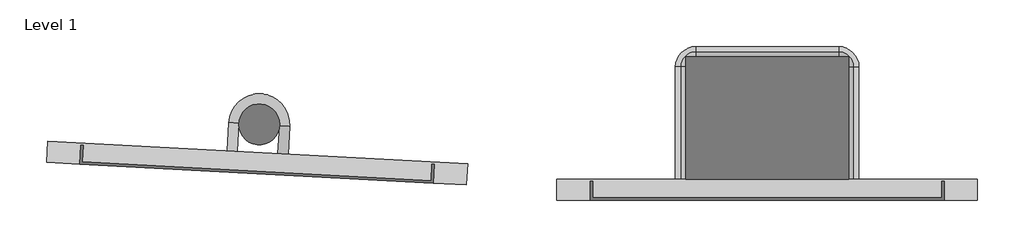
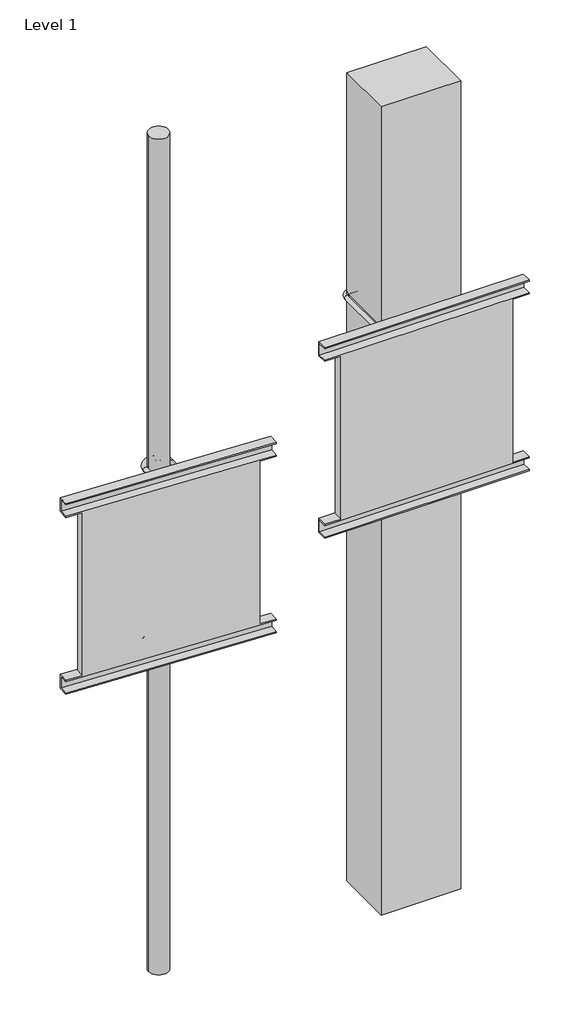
# One storey: 4 proxies.
"""IFC4 building model written with IfcOpenShell, lengths in millimetres."""

from ifc_helpers import new_model, si_unit, point, frame_2d, origin, origin_with_axes, place, context, project, spatial, polyline, circle_curve, trimmed, segment, composite_curve, outline, extrude, transform, mapped, element, save
from components import variable_column_adapter_a97fb514, variable_column_adapter_8650502b

model = new_model("IFC4")

# Units and contexts
model_context = context("Model", 3, world=origin())
ifc_project = project(units=[si_unit("LENGTHUNIT", "METRE", prefix="MILLI")], contexts=[model_context])

# Site, building, storey
site = spatial("IfcSite", under=ifc_project)
building = spatial("IfcBuilding", under=site)
storey = spatial("IfcBuildingStorey", under=building, Name="Level 1", Elevation=0.0)

# Proxies
placement = place(None, origin())
element("IfcBuildingElementProxy", 1, Name="Mass 1 : Mass 1", ObjectType="Mass 1 : Mass 1", at=placement, inside=storey, context=model_context, shape_type="SweptSolid", body=[
    extrude(outline(composite_curve([segment(trimmed(circle_curve(frame_2d((1982.2246291, 1762.4787998)), 25.4), [point((1956.8246291, 1762.4787998))], [point((2007.6246291, 1762.4787998))], False, "CARTESIAN"), True, "CONTINUOUS"), segment(trimmed(circle_curve(frame_2d((1982.2246291, 1762.4787998)), 25.4), [point((2007.6246291, 1762.4787998))], [point((1956.8246291, 1762.4787998))], False, "CARTESIAN"), True, "CONTINUOUS")], self_intersect=False)), origin_with_axes(), (0.0, 0.0, 1.0), 2264.2187315),
])
element("IfcBuildingElementProxy", 2, Name="Mass 2 : Mass 2", ObjectType="Mass 2 : Mass 2", at=placement, inside=storey, context=model_context, shape_type="SweptSolid", body=[
    extrude(outline(polyline([(2716.8755777, 1846.7341435), (2716.8755777, 1694.3341435), (2513.6755777, 1694.3341435), (2513.6755777, 1846.7341435), (2716.8755777, 1846.7341435)])), origin_with_axes(), (0.0, 0.0, 1.0), 2189.5997748),
])
variable_column_adapter_shape = variable_column_adapter_a97fb514(model_context)
element("IfcBuildingElementProxy", 3, Name="Adapter-Column_Mount_Variable-Chief-Flat_Panel_Mount : Variable Column Adapter", ObjectType="Adapter-Column_Mount_Variable-Chief-Flat_Panel_Mount : Variable Column Adapter", at=placement, inside=storey, context=model_context, shape_type="MappedRepresentation", body=[
    mapped(variable_column_adapter_shape, transform((1980.8583093, 1737.115575, 1122.5451273), x_axis=(0.9985521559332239, -0.05379211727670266, 0.0), y_axis=(0.0, 0.0, 1.0), z_axis=(-0.05379211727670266, -0.9985521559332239, 0.0))),
])
variable_column_adapter_2_shape = variable_column_adapter_8650502b(model_context)
element("IfcBuildingElementProxy", 4, Name="Adapter-Column_Mount_Variable-Chief-Flat_Panel_Mount : Variable Column Adapter", ObjectType="Adapter-Column_Mount_Variable-Chief-Flat_Panel_Mount : Variable Column Adapter", at=placement, inside=storey, context=model_context, shape_type="MappedRepresentation", body=[
    mapped(variable_column_adapter_2_shape, transform((2615.2755777, 1694.3341435, 1351.3997748), x_axis=(1.0, 0.0, 0.0), y_axis=(0.0, 0.0, 1.0), z_axis=(0.0, -1.0, 0.0))),
])

save(model, "model.ifc")
